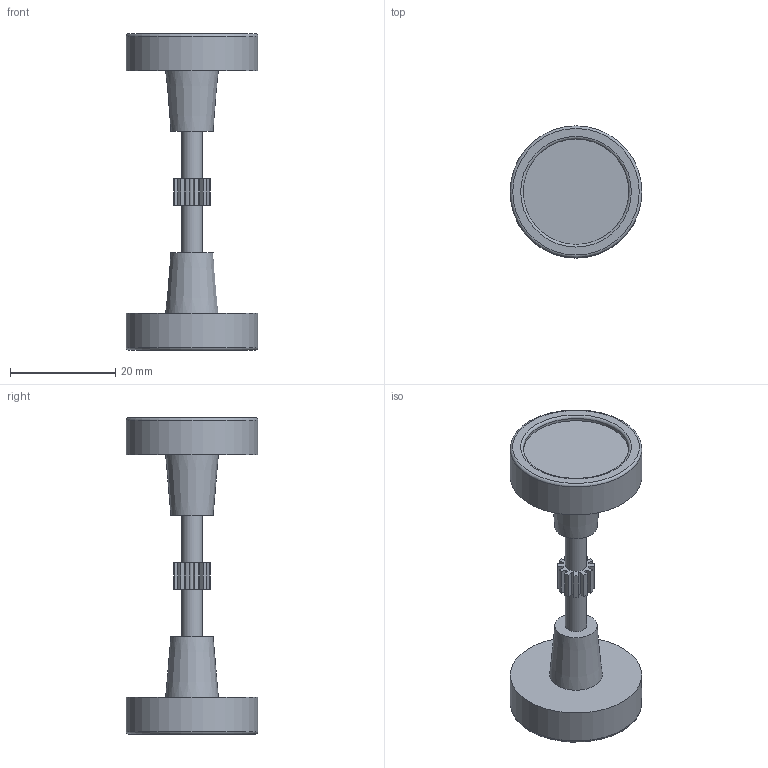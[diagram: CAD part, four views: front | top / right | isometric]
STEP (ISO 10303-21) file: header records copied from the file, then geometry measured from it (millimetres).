
FILE_DESCRIPTION(/* description */ ('Ручка настройки'),/* implementation_level */ '2;1');
FILE_NAME(/* name */ 'D:\ \Работа\JuniorSkills\2018\ОтборочныйЗадание\Микроскоп\STEP\Ручка настройки.stp',/* time_stamp */ '2017-11-09T06:44:28+07:00',/* author */ ('Andrey'),/* organization */ (''),/* preprocessor_version */ 'ST-DEVELOPER v15.6',/* originating_system */ 'Autodesk Inventor 2015',/* authorisation */ '');
FILE_SCHEMA (('AUTOMOTIVE_DESIGN { 1 0 10303 214 3 1 1 }'));
Length unit declared in the file: millimetre
Products named in the file (1): Ручка \X2\043D0430044104420440043E
0439043A0438\X0\
Bounding box: 25 x 25 x 60 mm (x, y, z)
Volume: 8072.1 mm3; surface area: 4159 mm2
Topology: 1 solids, 1 shells, 70 faces, 176 edges, 116 vertices
Faces by surface type: plane 34, cylinder 30, torus 4, cone 2
Full cylindrical faces by diameter (mm): 4 x2, 20 x2, 25 x2
Entity records: 2080 total; most frequent: DIRECTION 374, CARTESIAN_POINT 351, ORIENTED_EDGE 328, EDGE_CURVE 164, AXIS2_PLACEMENT_3D 139, VERTEX_POINT 116, LINE 96, VECTOR 96
